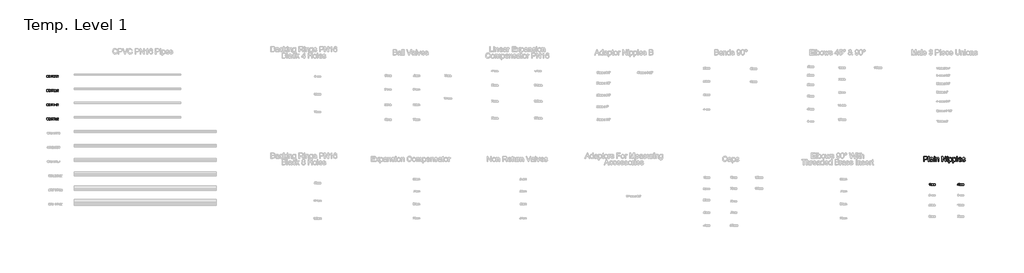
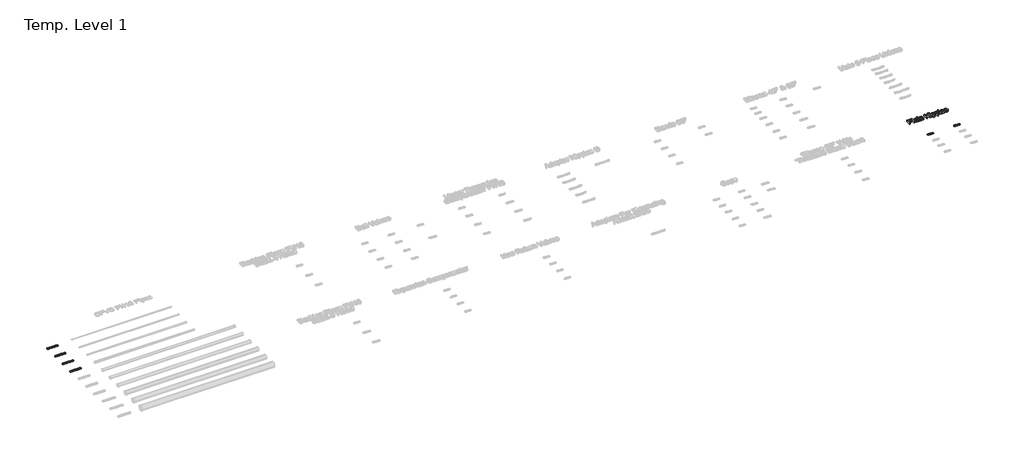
# One storey, part 53 of 62: 7 proxies.
"""IFC4 building model written with IfcOpenShell, lengths in millimetres."""

from ifc_helpers import new_model, si_unit, origin, origin_with_axes, place, context, project, spatial, polyline, outline, extrude, element, save

model = new_model("IFC4")

# Units and contexts
model_context = context("Model", 3, world=origin())
ifc_project = project(units=[si_unit("LENGTHUNIT", "METRE", prefix="MILLI")], contexts=[model_context])

# Site, building, storey
site = spatial("IfcSite", under=ifc_project)
building = spatial("IfcBuilding", under=site)
storey = spatial("IfcBuildingStorey", under=building, Name="Temp. Level 1", Elevation=0.0)

# Proxies
placement = place(None, origin())
element("IfcBuildingElementProxy", 1, Name="150mm Arial", ObjectType="150mm Arial", at=placement, inside=storey, context=model_context, shape_type="SweptSolid", body=[
    extrude(outline(polyline([(26837.6560981, -1070.198517), (26837.6560981, -922.5062093), (26892.391675, -922.5062093), (26914.4589827, -923.9124593), (26932.3976846, -930.8175074), (26944.0262904, -945.0963536), (26948.4253288, -965.2345747), (26945.4550764, -982.6414257), (26936.5443192, -997.1456324), (26919.8811582, -1006.9352959), (26893.6536942, -1010.198517), (26856.1176365, -1010.198517), (26856.1176365, -1070.198517), (26837.6560981, -1070.198517)]), holes=[polyline([(26856.1176365, -991.7369786), (26894.735425, -991.7369786), (26911.1056173, -990.042267), (26921.922925, -984.9581324), (26927.953574, -976.8000795), (26929.9637904, -965.8836132), (26925.2222038, -950.5951516), (26912.7642712, -942.229767), (26894.3027327, -940.9677478), (26856.1176365, -940.9677478), (26856.1176365, -991.7369786)])]), origin_with_axes(), (0.0, 0.0, 1.0), 50.0),
    extrude(outline(polyline([(26971.5022519, -1070.198517), (26971.5022519, -922.5062093), (26989.9637904, -922.5062093), (26989.9637904, -1070.198517), (26971.5022519, -1070.198517)])), origin_with_axes(), (0.0, 0.0, 1.0), 50.0),
    extrude(outline(polyline([(27086.8868673, -1056.3523632), (27068.9842231, -1068.8643824), (27049.2065788, -1072.5062093), (27033.7783938, -1070.3157045), (27022.3976846, -1063.7441901), (27015.3799563, -1053.7652237), (27013.0407135, -1041.3523632), (27016.5743673, -1026.7489978), (27025.8592231, -1016.1480362), (27038.7859058, -1010.0903439), (27054.7594635, -1007.3139016), (27086.7786942, -1000.9677478), (27086.8868673, -996.8571709), (27085.6158337, -988.6179882), (27081.8027327, -983.2273632), (27073.2750885, -979.2249593), (27061.3940788, -977.8908247), (27042.7161942, -981.4425074), (27033.8099442, -994.0446709), (27015.3484058, -991.7369786), (27023.3351846, -973.7081324), (27039.4169154, -963.1432286), (27063.7738865, -959.4292862), (27086.1476846, -962.7105362), (27098.7859058, -970.9497189), (27104.4469635, -983.479767), (27105.3484058, -999.6336132), (27105.3484058, -1022.6023632), (27106.2859058, -1054.6756805), (27109.9637904, -1070.198517), (27091.5022519, -1070.198517), (27086.8868673, -1056.3523632)]), holes=[polyline([(27086.8868673, -1019.4292862), (27057.1032135, -1025.0903439), (27041.2198, -1028.0831324), (27034.0262904, -1032.9509209), (27031.5022519, -1040.0542862), (27037.00105, -1050.042267), (27053.1368673, -1054.0446709), (27071.8147519, -1049.6276036), (27083.8580212, -1038.9364978), (27086.7786942, -1024.6576516), (27086.8868673, -1019.4292862)])]), origin_with_axes(), (0.0, 0.0, 1.0), 50.0),
    extrude(outline(polyline([(27130.7330212, -940.9677478), (27130.7330212, -922.5062093), (27149.1945596, -922.5062093), (27149.1945596, -940.9677478), (27130.7330212, -940.9677478)])), origin_with_axes(), (0.0, 0.0, 1.0), 50.0),
    extrude(outline(polyline([(27130.7330212, -1070.198517), (27130.7330212, -961.7369786), (27149.1945596, -961.7369786), (27149.1945596, -1070.198517), (27130.7330212, -1070.198517)])), origin_with_axes(), (0.0, 0.0, 1.0), 50.0),
    extrude(outline(polyline([(27176.8868673, -1070.198517), (27176.8868673, -961.7369786), (27195.3484058, -961.7369786), (27195.3484058, -976.8812093), (27209.4649923, -963.792267), (27228.7378288, -959.4292862), (27246.1717231, -962.9449112), (27258.0707615, -972.1756805), (27263.6056173, -985.7514016), (27264.579175, -1003.5999593), (27264.579175, -1070.198517), (27246.1176365, -1070.198517), (27246.1176365, -1006.0879401), (27243.9902327, -989.7538055), (27236.4722038, -981.1179882), (27223.797925, -977.8908247), (27212.9851245, -979.7027237), (27203.7678769, -985.1384209), (27197.4532736, -995.6402237), (27195.3484058, -1012.6504401), (27195.3484058, -1070.198517), (27176.8868673, -1070.198517)])), origin_with_axes(), (0.0, 0.0, 1.0), 50.0),
    extrude(outline(polyline([(27349.9637904, -1070.198517), (27349.9637904, -922.5062093), (27369.7234058, -922.5062093), (27446.8868673, -1039.5134209), (27446.8868673, -922.5062093), (27465.3484058, -922.5062093), (27465.3484058, -1070.198517), (27445.5887904, -1070.198517), (27368.4253288, -953.1552478), (27368.4253288, -1070.198517), (27349.9637904, -1070.198517)])), origin_with_axes(), (0.0, 0.0, 1.0), 50.0),
    extrude(outline(polyline([(27495.3484058, -1070.198517), (27495.3484058, -961.7369786), (27513.8099442, -961.7369786), (27513.8099442, -1070.198517), (27495.3484058, -1070.198517)])), origin_with_axes(), (0.0, 0.0, 1.0), 50.0),
    extrude(outline(polyline([(27495.3484058, -940.9677478), (27495.3484058, -922.5062093), (27513.8099442, -922.5062093), (27513.8099442, -940.9677478), (27495.3484058, -940.9677478)])), origin_with_axes(), (0.0, 0.0, 1.0), 50.0),
    extrude(outline(polyline([(27541.5022519, -1111.7369786), (27541.5022519, -961.7369786), (27559.9637904, -961.7369786), (27559.9637904, -979.8379401), (27572.7282135, -964.5314497), (27589.9637904, -959.4292862), (27602.4487663, -961.214142), (27613.3652327, -966.5687093), (27622.2534538, -975.1684689), (27628.6536942, -986.6889016), (27633.8099442, -1015.1384209), (27632.3541149, -1030.9271829), (27627.9866269, -1045.0482766), (27620.8472038, -1056.7850555), (27611.0755692, -1065.4208728), (27599.6948601, -1070.7348752), (27587.7282135, -1072.5062093), (27571.6645115, -1067.7646228), (27559.9637904, -1055.7754401), (27559.9637904, -1111.7369786), (27541.5022519, -1111.7369786)]), holes=[polyline([(27559.9637904, -1016.8331324), (27561.9604851, -1033.3836132), (27567.9505692, -1044.9581324), (27576.7892111, -1051.7730362), (27587.3315788, -1054.0446709), (27598.0452207, -1051.6919064), (27607.1092231, -1044.6336132), (27613.2886101, -1032.6354161), (27615.3484058, -1015.4629401), (27613.3381894, -999.0026036), (27607.3075404, -987.2658247), (27598.4824202, -980.2345747), (27588.0887904, -977.8908247), (27577.6545957, -980.3833127), (27568.4914346, -987.8607766), (27562.0957014, -1000.0888415), (27559.9637904, -1016.8331324)])]), origin_with_axes(), (0.0, 0.0, 1.0), 50.0),
    extrude(outline(polyline([(27654.579175, -1111.7369786), (27654.579175, -961.7369786), (27673.0407135, -961.7369786), (27673.0407135, -979.8379401), (27685.8051365, -964.5314497), (27703.0407135, -959.4292862), (27715.5256894, -961.214142), (27726.4421558, -966.5687093), (27735.3303769, -975.1684689), (27741.7306173, -986.6889016), (27746.8868673, -1015.1384209), (27745.431038, -1030.9271829), (27741.06355, -1045.0482766), (27733.9241269, -1056.7850555), (27724.1524923, -1065.4208728), (27712.7717832, -1070.7348752), (27700.8051365, -1072.5062093), (27684.7414346, -1067.7646228), (27673.0407135, -1055.7754401), (27673.0407135, -1111.7369786), (27654.579175, -1111.7369786)]), holes=[polyline([(27673.0407135, -1016.8331324), (27675.0374082, -1033.3836132), (27681.0274923, -1044.9581324), (27689.8661341, -1051.7730362), (27700.4085019, -1054.0446709), (27711.1221438, -1051.6919064), (27720.1861462, -1044.6336132), (27726.3655332, -1032.6354161), (27728.4253288, -1015.4629401), (27726.4151125, -999.0026036), (27720.3844635, -987.2658247), (27711.5593433, -980.2345747), (27701.1657135, -977.8908247), (27690.7315188, -980.3833127), (27681.5683577, -987.8607766), (27675.1726245, -1000.0888415), (27673.0407135, -1016.8331324)])]), origin_with_axes(), (0.0, 0.0, 1.0), 50.0),
    extrude(outline(polyline([(27767.6560981, -1070.198517), (27767.6560981, -922.5062093), (27786.1176365, -922.5062093), (27786.1176365, -1070.198517), (27767.6560981, -1070.198517)])), origin_with_axes(), (0.0, 0.0, 1.0), 50.0),
    extrude(outline(polyline([(27889.7474442, -1037.8908247), (27907.8484058, -1040.198517), (27901.3264707, -1053.8373391), (27890.9193192, -1064.0326516), (27876.8613264, -1070.3878199), (27859.3868673, -1072.5062093), (27837.7252087, -1068.8508608), (27821.0575404, -1057.8848151), (27810.4295356, -1040.3202117), (27806.8868673, -1016.8691901), (27810.4655933, -992.6294064), (27821.2017712, -974.5014016), (27837.6440788, -963.1973151), (27858.3411942, -959.4292862), (27878.3937784, -963.1883007), (27894.4169154, -974.4653439), (27904.9232255, -992.5572911), (27908.4253288, -1016.761017), (27908.3171558, -1021.7369786), (27825.3484058, -1021.7369786), (27828.5440188, -1035.5560891), (27835.9673962, -1045.7153439), (27846.681038, -1051.9623391), (27859.7474442, -1054.0446709), (27877.8484058, -1050.1864978), (27889.7474442, -1037.8908247)]), holes=[polyline([(27825.3484058, -1003.2754401), (27889.9637904, -1003.2754401), (27887.4667952, -993.5218343), (27882.5719635, -986.5446709), (27871.8087423, -980.0542862), (27858.2690788, -977.8908247), (27845.8246678, -979.6170867), (27835.5347038, -984.7958728), (27828.3817591, -992.8682887), (27825.3484058, -1003.2754401)])]), origin_with_axes(), (0.0, 0.0, 1.0), 50.0),
    extrude(outline(polyline([(27919.9637904, -1037.8908247), (27938.4253288, -1035.5831324), (27941.3369875, -1043.479767), (27946.9710019, -1049.2850555), (27966.5503288, -1054.0446709), (27985.3724442, -1049.6816901), (27991.5022519, -1039.4413055), (27985.3363865, -1031.1480362), (27966.3339827, -1025.8836132), (27938.5335019, -1016.8511612), (27926.4000885, -1006.3042862), (27922.2714827, -991.4124593), (27925.5887904, -977.6564497), (27934.6392712, -967.1456324), (27946.37605, -961.682892), (27962.2594635, -959.4292862), (27984.7234058, -963.0530843), (27999.0022519, -972.8607766), (28005.3484058, -989.4292862), (27986.8868673, -991.7369786), (27979.9457615, -981.5506805), (27963.7017712, -977.8908247), (27946.0335019, -981.3884209), (27940.7330212, -989.5374593), (27942.9325404, -994.9100555), (27949.8195596, -998.9845747), (27965.7210019, -1002.9148632), (27992.8183577, -1011.604767), (28005.4024923, -1021.448517), (28009.9637904, -1037.4941901), (28004.6092231, -1055.1624593), (27989.1585019, -1067.9809689), (27966.297925, -1072.5062093), (27947.6831413, -1070.3247189), (27934.0984058, -1063.7802478), (27925.0298962, -1052.9449112), (27919.9637904, -1037.8908247)])), origin_with_axes(), (0.0, 0.0, 1.0), 50.0),
])
element("IfcBuildingElementProxy", 2, Name="50mm Arial", ObjectType="50mm Arial", at=placement, inside=storey, context=model_context, shape_type="SweptSolid", body=[
    extrude(outline(polyline([(27009.5772603, -1740.3522066), (27003.4234142, -1740.3522066), (27003.4234142, -1701.986822), (26997.5940872, -1706.1394662), (26991.1157219, -1709.2464374), (26991.1157219, -1703.4291297), (27000.1361546, -1697.6719182), (27005.6109142, -1691.1214374), (27009.5772603, -1691.1214374), (27009.5772603, -1740.3522066)])), origin_with_axes(), (0.0, 0.0, 1.0), 15.0),
    extrude(outline(polyline([(27055.7311065, -1704.1983605), (27049.5772603, -1704.9675912), (27047.2455296, -1699.8353797), (27041.0796642, -1697.2752835), (27035.5267796, -1698.7656682), (27031.3260584, -1704.3606201), (27029.5772603, -1715.3281682), (27035.003943, -1710.4183124), (27041.7287026, -1708.8137451), (27052.1854334, -1713.2007643), (27056.5003372, -1724.5348989), (27054.4690872, -1733.0264855), (27048.8801449, -1739.0361009), (27040.8152411, -1741.1214374), (27028.2731738, -1735.5925912), (27024.6358541, -1728.2728797), (27023.4234142, -1717.3714374), (27024.769568, -1705.1148268), (27028.8080296, -1696.7344182), (27034.3218517, -1692.5246826), (27041.4642796, -1691.1214374), (27051.1878372, -1694.5949951), (27055.7311065, -1704.1983605)]), holes=[polyline([(27029.5772603, -1724.4387451), (27031.0015392, -1729.7692739), (27034.7875969, -1733.6394662), (27040.3344719, -1734.9675912), (27047.5880776, -1732.2151874), (27050.3464911, -1724.7392259), (27047.6241353, -1717.5817739), (27040.082068, -1714.9675912), (27032.6361546, -1717.5817739), (27029.5772603, -1724.4387451)])]), origin_with_axes(), (0.0, 0.0, 1.0), 15.0),
    extrude(outline(polyline([(27063.4234142, -1740.3522066), (27063.4234142, -1704.1983605), (27069.5772603, -1704.1983605), (27069.5772603, -1710.1478797), (27073.8080296, -1705.2740816), (27079.8296642, -1703.4291297), (27085.9955296, -1705.3101393), (27089.3849526, -1710.580572), (27094.1866353, -1705.2169903), (27100.2503372, -1703.4291297), (27108.2972122, -1706.4038893), (27111.1157219, -1715.5685528), (27111.1157219, -1740.3522066), (27104.9618757, -1740.3522066), (27104.9618757, -1718.2127835), (27104.3909622, -1713.0745624), (27102.3236546, -1710.5445143), (27098.8080296, -1709.5829759), (27092.7563469, -1712.0469182), (27090.3464911, -1719.9435528), (27090.3464911, -1740.3522066), (27084.1926449, -1740.3522066), (27084.1926449, -1717.5276874), (27082.7683661, -1711.5661489), (27078.0988949, -1709.5829759), (27073.5436065, -1710.9050912), (27070.5147603, -1714.7752835), (27069.5772603, -1722.1190335), (27069.5772603, -1740.3522066), (27063.4234142, -1740.3522066)])), origin_with_axes(), (0.0, 0.0, 1.0), 15.0),
    extrude(outline(polyline([(27120.3464911, -1740.3522066), (27120.3464911, -1704.1983605), (27126.5003372, -1704.1983605), (27126.5003372, -1710.1478797), (27130.7311065, -1705.2740816), (27136.7527411, -1703.4291297), (27142.9186065, -1705.3101393), (27146.3080296, -1710.580572), (27151.1097122, -1705.2169903), (27157.1734142, -1703.4291297), (27165.2202892, -1706.4038893), (27168.0387988, -1715.5685528), (27168.0387988, -1740.3522066), (27161.8849526, -1740.3522066), (27161.8849526, -1718.2127835), (27161.3140392, -1713.0745624), (27159.2467315, -1710.5445143), (27155.7311065, -1709.5829759), (27149.6794238, -1712.0469182), (27147.269568, -1719.9435528), (27147.269568, -1740.3522066), (27141.1157219, -1740.3522066), (27141.1157219, -1717.5276874), (27139.691443, -1711.5661489), (27135.0219719, -1709.5829759), (27130.4666834, -1710.9050912), (27127.4378372, -1714.7752835), (27126.5003372, -1722.1190335), (27126.5003372, -1740.3522066), (27120.3464911, -1740.3522066)])), origin_with_axes(), (0.0, 0.0, 1.0), 15.0),
])
element("IfcBuildingElementProxy", 3, Name="50mm Arial", ObjectType="50mm Arial", at=placement, inside=storey, context=model_context, shape_type="SweptSolid", body=[
    extrude(outline(polyline([(27810.226047, -1740.3522066), (27810.226047, -1728.8137451), (27787.9183547, -1728.8137451), (27787.9183547, -1722.6598989), (27811.7645085, -1691.8906682), (27816.3798931, -1691.8906682), (27816.3798931, -1722.6598989), (27822.5337393, -1722.6598989), (27822.5337393, -1728.8137451), (27816.3798931, -1728.8137451), (27816.3798931, -1740.3522066), (27810.226047, -1740.3522066)]), holes=[polyline([(27810.226047, -1722.6598989), (27810.226047, -1703.6454759), (27795.4904701, -1722.6598989), (27810.226047, -1722.6598989)])]), origin_with_axes(), (0.0, 0.0, 1.0), 15.0),
    extrude(outline(polyline([(27827.9183547, -1716.1334566), (27829.7272489, -1701.9687932), (27835.0998451, -1693.8017259), (27844.0722008, -1691.1214374), (27851.2597008, -1692.7079759), (27856.2236431, -1697.2812932), (27859.1082585, -1704.564947), (27860.226047, -1716.1334566), (27858.4351816, -1730.2380239), (27853.0806143, -1738.4231201), (27844.0722008, -1741.1214374), (27832.8222008, -1736.4339374), (27829.1443162, -1728.1076153), (27827.9183547, -1716.1334566)]), holes=[polyline([(27834.0722008, -1716.1214374), (27836.9568162, -1731.4038893), (27844.0722008, -1734.9675912), (27851.1875854, -1731.3918701), (27854.0722008, -1716.1214374), (27851.2837393, -1701.0132643), (27844.0000854, -1697.2752835), (27837.0529701, -1700.5685528), (27834.0722008, -1716.1214374)])]), origin_with_axes(), (0.0, 0.0, 1.0), 15.0),
    extrude(outline(polyline([(27867.1491239, -1740.3522066), (27867.1491239, -1704.1983605), (27873.3029701, -1704.1983605), (27873.3029701, -1710.1478797), (27877.5337393, -1705.2740816), (27883.5553739, -1703.4291297), (27889.7212393, -1705.3101393), (27893.1106624, -1710.580572), (27897.9123451, -1705.2169903), (27903.976047, -1703.4291297), (27912.022922, -1706.4038893), (27914.8414316, -1715.5685528), (27914.8414316, -1740.3522066), (27908.6875854, -1740.3522066), (27908.6875854, -1718.2127835), (27908.116672, -1713.0745624), (27906.0493643, -1710.5445143), (27902.5337393, -1709.5829759), (27896.4820566, -1712.0469182), (27894.0722008, -1719.9435528), (27894.0722008, -1740.3522066), (27887.9183547, -1740.3522066), (27887.9183547, -1717.5276874), (27886.4940758, -1711.5661489), (27881.8246047, -1709.5829759), (27877.2693162, -1710.9050912), (27874.2404701, -1714.7752835), (27873.3029701, -1722.1190335), (27873.3029701, -1740.3522066), (27867.1491239, -1740.3522066)])), origin_with_axes(), (0.0, 0.0, 1.0), 15.0),
    extrude(outline(polyline([(27924.0722008, -1740.3522066), (27924.0722008, -1704.1983605), (27930.226047, -1704.1983605), (27930.226047, -1710.1478797), (27934.4568162, -1705.2740816), (27940.4784508, -1703.4291297), (27946.6443162, -1705.3101393), (27950.0337393, -1710.580572), (27954.835422, -1705.2169903), (27960.8991239, -1703.4291297), (27968.9459989, -1706.4038893), (27971.7645085, -1715.5685528), (27971.7645085, -1740.3522066), (27965.6106624, -1740.3522066), (27965.6106624, -1718.2127835), (27965.0397489, -1713.0745624), (27962.9724412, -1710.5445143), (27959.4568162, -1709.5829759), (27953.4051335, -1712.0469182), (27950.9952777, -1719.9435528), (27950.9952777, -1740.3522066), (27944.8414316, -1740.3522066), (27944.8414316, -1717.5276874), (27943.4171527, -1711.5661489), (27938.7476816, -1709.5829759), (27934.1923931, -1710.9050912), (27931.163547, -1714.7752835), (27930.226047, -1722.1190335), (27930.226047, -1740.3522066), (27924.0722008, -1740.3522066)])), origin_with_axes(), (0.0, 0.0, 1.0), 15.0),
])
element("IfcBuildingElementProxy", 4, Name="50mm Arial", ObjectType="50mm Arial", at=placement, inside=storey, context=model_context, shape_type="SweptSolid", body=[
    extrude(outline(polyline([(2215.1756771, 1321.5015112), (2215.1756771, 1327.6553574), (2235.1756771, 1327.6553574), (2235.1756771, 1309.2539151), (2225.301879, 1303.4486266), (2214.8631771, 1301.5015112), (2201.7201483, 1304.5964632), (2192.801879, 1313.5567997), (2189.7910617, 1326.645742), (2192.7898598, 1340.0291555), (2201.4136579, 1349.2539151), (2214.3703886, 1352.270742), (2223.9977925, 1350.5219439), (2230.7465906, 1345.6541555), (2234.4665425, 1337.5111266), (2228.7934656, 1335.9125689), (2225.9869752, 1341.6036747), (2221.1913021, 1344.8849247), (2214.2742348, 1346.1168958), (2206.395629, 1344.7887708), (2201.0350521, 1341.3031939), (2197.8679848, 1336.5616074), (2195.9449079, 1326.8981458), (2198.2586098, 1316.1709824), (2204.989379, 1309.7527132), (2214.3703886, 1307.6553574), (2222.7898598, 1309.2358862), (2229.0218309, 1312.6072805), (2229.0218309, 1321.5015112), (2215.1756771, 1321.5015112)])), origin_with_axes(), (0.0, 0.0, 1.0), 15.0),
    extrude(outline(polyline([(2257.4833694, 1302.270742), (2257.4833694, 1345.3476651), (2241.3295233, 1345.3476651), (2241.3295233, 1351.5015112), (2279.7910617, 1351.5015112), (2279.7910617, 1345.3476651), (2263.6372156, 1345.3476651), (2263.6372156, 1302.270742), (2257.4833694, 1302.270742)])), origin_with_axes(), (0.0, 0.0, 1.0), 15.0),
    extrude(outline(polyline([(2286.7141386, 1302.270742), (2286.7141386, 1351.5015112), (2292.8679848, 1351.5015112), (2292.8679848, 1331.5015112), (2319.0218309, 1331.5015112), (2319.0218309, 1351.5015112), (2325.1756771, 1351.5015112), (2325.1756771, 1302.270742), (2319.0218309, 1302.270742), (2319.0218309, 1325.3476651), (2292.8679848, 1325.3476651), (2292.8679848, 1302.270742), (2286.7141386, 1302.270742)])), origin_with_axes(), (0.0, 0.0, 1.0), 15.0),
    extrude(outline(polyline([(2348.2526002, 1302.270742), (2348.2526002, 1345.3476651), (2332.098754, 1345.3476651), (2332.098754, 1351.5015112), (2370.5602925, 1351.5015112), (2370.5602925, 1345.3476651), (2354.4064463, 1345.3476651), (2354.4064463, 1302.270742), (2348.2526002, 1302.270742)])), origin_with_axes(), (0.0, 0.0, 1.0), 15.0),
    extrude(outline(polyline([(2406.7141386, 1308.4245882), (2406.7141386, 1302.270742), (2374.4064463, 1302.270742), (2375.067504, 1306.5135305), (2378.8054848, 1313.0459824), (2386.5098117, 1320.1793958), (2397.1348117, 1330.4317997), (2399.7910617, 1337.4029535), (2397.2850521, 1343.0459824), (2390.7405809, 1345.3476651), (2383.9196675, 1343.1000689), (2381.3295233, 1336.8861266), (2375.1756771, 1337.6553574), (2379.8932252, 1347.9558382), (2390.8727925, 1351.5015112), (2401.8884175, 1347.5592035), (2405.9449079, 1337.7755497), (2404.8511579, 1331.9402132), (2401.2153406, 1325.9065593), (2392.3992348, 1317.4750689), (2385.3199079, 1311.5555978), (2382.5434656, 1308.4245882), (2406.7141386, 1308.4245882)])), origin_with_axes(), (0.0, 0.0, 1.0), 15.0),
    extrude(outline(polyline([(2412.8679848, 1315.3476651), (2419.0218309, 1316.1168958), (2422.1227925, 1309.7767516), (2428.5530809, 1307.6553574), (2436.2694271, 1310.6060785), (2439.0218309, 1318.4366074), (2436.4437059, 1325.7442997), (2428.6492348, 1328.4245882), (2423.2465906, 1327.3548766), (2419.7910617, 1324.5784343), (2413.6372156, 1325.3476651), (2419.0218309, 1350.7322805), (2442.8679848, 1350.7322805), (2442.8679848, 1344.5784343), (2423.9977925, 1344.5784343), (2421.3655809, 1331.020742), (2430.3679848, 1334.5784343), (2440.8908213, 1330.1673766), (2445.1756771, 1318.8212228), (2441.317504, 1307.4029535), (2435.7766386, 1302.9768718), (2428.5290425, 1301.5015112), (2417.6696675, 1305.2935785), (2412.8679848, 1315.3476651)])), origin_with_axes(), (0.0, 0.0, 1.0), 15.0),
    extrude(outline(polyline([(2473.6372156, 1302.270742), (2467.4833694, 1302.270742), (2467.4833694, 1340.6361266), (2461.6540425, 1336.4834824), (2455.1756771, 1333.3765112), (2455.1756771, 1339.1938189), (2464.1961098, 1344.9510305), (2469.6708694, 1351.5015112), (2473.6372156, 1351.5015112), (2473.6372156, 1302.270742)])), origin_with_axes(), (0.0, 0.0, 1.0), 15.0),
    extrude(outline(polyline([(2519.7910617, 1338.4245882), (2513.6372156, 1337.6553574), (2511.3054848, 1342.7875689), (2505.1396194, 1345.3476651), (2499.5867348, 1343.8572805), (2495.3860136, 1338.2623285), (2493.6372156, 1327.2947805), (2499.0638983, 1332.2046362), (2505.7886579, 1333.8092035), (2516.2453886, 1329.4221843), (2520.5602925, 1318.0880497), (2518.5290425, 1309.5964632), (2512.9401002, 1303.5868478), (2504.8751963, 1301.5015112), (2492.333129, 1307.0303574), (2488.6958093, 1314.3500689), (2487.4833694, 1325.2515112), (2488.8295233, 1337.5081218), (2492.8679848, 1345.8885305), (2498.3818069, 1350.098266), (2505.5242348, 1351.5015112), (2515.2477925, 1348.0279535), (2519.7910617, 1338.4245882)]), holes=[polyline([(2493.6372156, 1318.1842035), (2495.0614944, 1312.8536747), (2498.8475521, 1308.9834824), (2504.3944271, 1307.6553574), (2511.6480329, 1310.4077612), (2514.4064463, 1317.8837228), (2511.6840906, 1325.0411747), (2504.1420233, 1327.6553574), (2496.6961098, 1325.0411747), (2493.6372156, 1318.1842035)])]), origin_with_axes(), (0.0, 0.0, 1.0), 15.0),
])
element("IfcBuildingElementProxy", 5, Name="50mm Arial", ObjectType="50mm Arial", at=placement, inside=storey, context=model_context, shape_type="SweptSolid", body=[
    extrude(outline(polyline([(2215.1756771, 921.5015112), (2215.1756771, 927.6553574), (2235.1756771, 927.6553574), (2235.1756771, 909.2539151), (2225.301879, 903.4486266), (2214.8631771, 901.5015112), (2201.7201483, 904.5964632), (2192.801879, 913.5567997), (2189.7910617, 926.645742), (2192.7898598, 940.0291555), (2201.4136579, 949.2539151), (2214.3703886, 952.270742), (2223.9977925, 950.5219439), (2230.7465906, 945.6541555), (2234.4665425, 937.5111266), (2228.7934656, 935.9125689), (2225.9869752, 941.6036747), (2221.1913021, 944.8849247), (2214.2742348, 946.1168958), (2206.395629, 944.7887708), (2201.0350521, 941.3031939), (2197.8679848, 936.5616074), (2195.9449079, 926.8981458), (2198.2586098, 916.1709824), (2204.989379, 909.7527132), (2214.3703886, 907.6553574), (2222.7898598, 909.2358862), (2229.0218309, 912.6072805), (2229.0218309, 921.5015112), (2215.1756771, 921.5015112)])), origin_with_axes(), (0.0, 0.0, 1.0), 15.0),
    extrude(outline(polyline([(2257.4833694, 902.270742), (2257.4833694, 945.3476651), (2241.3295233, 945.3476651), (2241.3295233, 951.5015112), (2279.7910617, 951.5015112), (2279.7910617, 945.3476651), (2263.6372156, 945.3476651), (2263.6372156, 902.270742), (2257.4833694, 902.270742)])), origin_with_axes(), (0.0, 0.0, 1.0), 15.0),
    extrude(outline(polyline([(2286.7141386, 902.270742), (2286.7141386, 951.5015112), (2292.8679848, 951.5015112), (2292.8679848, 931.5015112), (2319.0218309, 931.5015112), (2319.0218309, 951.5015112), (2325.1756771, 951.5015112), (2325.1756771, 902.270742), (2319.0218309, 902.270742), (2319.0218309, 925.3476651), (2292.8679848, 925.3476651), (2292.8679848, 902.270742), (2286.7141386, 902.270742)])), origin_with_axes(), (0.0, 0.0, 1.0), 15.0),
    extrude(outline(polyline([(2348.2526002, 902.270742), (2348.2526002, 945.3476651), (2332.098754, 945.3476651), (2332.098754, 951.5015112), (2370.5602925, 951.5015112), (2370.5602925, 945.3476651), (2354.4064463, 945.3476651), (2354.4064463, 902.270742), (2348.2526002, 902.270742)])), origin_with_axes(), (0.0, 0.0, 1.0), 15.0),
    extrude(outline(polyline([(2375.1756771, 915.3476651), (2381.3295233, 916.1168958), (2384.7249559, 909.6385305), (2391.0771194, 907.6553574), (2398.5530809, 910.3837228), (2401.3295233, 917.1385305), (2398.5771194, 923.5027132), (2391.5819271, 926.020742), (2387.2670233, 925.3476651), (2387.9521194, 931.5015112), (2395.9208694, 933.1962228), (2399.0218309, 938.6289151), (2396.7742348, 943.442617), (2390.9809656, 945.3476651), (2385.1155809, 943.4245882), (2382.098754, 937.6553574), (2375.9449079, 938.4245882), (2380.9809656, 948.0760305), (2390.7646194, 951.5015112), (2398.1864944, 949.8128093), (2403.3788021, 945.1974247), (2405.1756771, 938.989492), (2403.4689463, 933.3164151), (2398.4208694, 929.2418958), (2405.1276002, 925.0351651), (2407.4833694, 917.0303574), (2402.7718309, 906.020742), (2390.8607733, 901.5015112), (2380.067504, 905.3596843), (2375.1756771, 915.3476651)])), origin_with_axes(), (0.0, 0.0, 1.0), 15.0),
    extrude(outline(polyline([(2444.4064463, 908.4245882), (2444.4064463, 902.270742), (2412.098754, 902.270742), (2412.7598117, 906.5135305), (2416.4977925, 913.0459824), (2424.2021194, 920.1793958), (2434.8271194, 930.4317997), (2437.4833694, 937.4029535), (2434.9773598, 943.0459824), (2428.4328886, 945.3476651), (2421.6119752, 943.1000689), (2419.0218309, 936.8861266), (2412.8679848, 937.6553574), (2417.5855329, 947.9558382), (2428.5651002, 951.5015112), (2439.5807252, 947.5592035), (2443.6372156, 937.7755497), (2442.5434656, 931.9402132), (2438.9076483, 925.9065593), (2430.0915425, 917.4750689), (2423.0122156, 911.5555978), (2420.2357733, 908.4245882), (2444.4064463, 908.4245882)])), origin_with_axes(), (0.0, 0.0, 1.0), 15.0),
    extrude(outline(polyline([(2473.6372156, 902.270742), (2467.4833694, 902.270742), (2467.4833694, 940.6361266), (2461.6540425, 936.4834824), (2455.1756771, 933.3765112), (2455.1756771, 939.1938189), (2464.1961098, 944.9510305), (2469.6708694, 951.5015112), (2473.6372156, 951.5015112), (2473.6372156, 902.270742)])), origin_with_axes(), (0.0, 0.0, 1.0), 15.0),
    extrude(outline(polyline([(2519.7910617, 938.4245882), (2513.6372156, 937.6553574), (2511.3054848, 942.7875689), (2505.1396194, 945.3476651), (2499.5867348, 943.8572805), (2495.3860136, 938.2623285), (2493.6372156, 927.2947805), (2499.0638983, 932.2046362), (2505.7886579, 933.8092035), (2516.2453886, 929.4221843), (2520.5602925, 918.0880497), (2518.5290425, 909.5964632), (2512.9401002, 903.5868478), (2504.8751963, 901.5015112), (2492.333129, 907.0303574), (2488.6958093, 914.3500689), (2487.4833694, 925.2515112), (2488.8295233, 937.5081218), (2492.8679848, 945.8885305), (2498.3818069, 950.098266), (2505.5242348, 951.5015112), (2515.2477925, 948.0279535), (2519.7910617, 938.4245882)]), holes=[polyline([(2493.6372156, 918.1842035), (2495.0614944, 912.8536747), (2498.8475521, 908.9834824), (2504.3944271, 907.6553574), (2511.6480329, 910.4077612), (2514.4064463, 917.8837228), (2511.6840906, 925.0411747), (2504.1420233, 927.6553574), (2496.6961098, 925.0411747), (2493.6372156, 918.1842035)])]), origin_with_axes(), (0.0, 0.0, 1.0), 15.0),
])
element("IfcBuildingElementProxy", 6, Name="50mm Arial", ObjectType="50mm Arial", at=placement, inside=storey, context=model_context, shape_type="SweptSolid", body=[
    extrude(outline(polyline([(2215.1756771, 521.5015112), (2215.1756771, 527.6553574), (2235.1756771, 527.6553574), (2235.1756771, 509.2539151), (2225.301879, 503.4486266), (2214.8631771, 501.5015112), (2201.7201483, 504.5964632), (2192.801879, 513.5567997), (2189.7910617, 526.645742), (2192.7898598, 540.0291555), (2201.4136579, 549.2539151), (2214.3703886, 552.270742), (2223.9977925, 550.5219439), (2230.7465906, 545.6541555), (2234.4665425, 537.5111266), (2228.7934656, 535.9125689), (2225.9869752, 541.6036747), (2221.1913021, 544.8849247), (2214.2742348, 546.1168958), (2206.395629, 544.7887708), (2201.0350521, 541.3031939), (2197.8679848, 536.5616074), (2195.9449079, 526.8981458), (2198.2586098, 516.1709824), (2204.989379, 509.7527132), (2214.3703886, 507.6553574), (2222.7898598, 509.2358862), (2229.0218309, 512.6072805), (2229.0218309, 521.5015112), (2215.1756771, 521.5015112)])), origin_with_axes(), (0.0, 0.0, 1.0), 15.0),
    extrude(outline(polyline([(2257.4833694, 502.270742), (2257.4833694, 545.3476651), (2241.3295233, 545.3476651), (2241.3295233, 551.5015112), (2279.7910617, 551.5015112), (2279.7910617, 545.3476651), (2263.6372156, 545.3476651), (2263.6372156, 502.270742), (2257.4833694, 502.270742)])), origin_with_axes(), (0.0, 0.0, 1.0), 15.0),
    extrude(outline(polyline([(2286.7141386, 502.270742), (2286.7141386, 551.5015112), (2292.8679848, 551.5015112), (2292.8679848, 531.5015112), (2319.0218309, 531.5015112), (2319.0218309, 551.5015112), (2325.1756771, 551.5015112), (2325.1756771, 502.270742), (2319.0218309, 502.270742), (2319.0218309, 525.3476651), (2292.8679848, 525.3476651), (2292.8679848, 502.270742), (2286.7141386, 502.270742)])), origin_with_axes(), (0.0, 0.0, 1.0), 15.0),
    extrude(outline(polyline([(2348.2526002, 502.270742), (2348.2526002, 545.3476651), (2332.098754, 545.3476651), (2332.098754, 551.5015112), (2370.5602925, 551.5015112), (2370.5602925, 545.3476651), (2354.4064463, 545.3476651), (2354.4064463, 502.270742), (2348.2526002, 502.270742)])), origin_with_axes(), (0.0, 0.0, 1.0), 15.0),
    extrude(outline(polyline([(2395.1756771, 502.270742), (2395.1756771, 513.8092035), (2372.8679848, 513.8092035), (2372.8679848, 519.9630497), (2396.7141386, 550.7322805), (2401.3295233, 550.7322805), (2401.3295233, 519.9630497), (2407.4833694, 519.9630497), (2407.4833694, 513.8092035), (2401.3295233, 513.8092035), (2401.3295233, 502.270742), (2395.1756771, 502.270742)]), holes=[polyline([(2395.1756771, 519.9630497), (2395.1756771, 538.9774728), (2380.4401002, 519.9630497), (2395.1756771, 519.9630497)])]), origin_with_axes(), (0.0, 0.0, 1.0), 15.0),
    extrude(outline(polyline([(2412.8679848, 526.489492), (2414.676879, 540.6541555), (2420.0494752, 548.8212228), (2429.0218309, 551.5015112), (2436.2093309, 549.9149728), (2441.1732733, 545.3416555), (2444.0578886, 538.0580016), (2445.1756771, 526.489492), (2443.3848117, 512.3849247), (2438.0302444, 504.1998285), (2429.0218309, 501.5015112), (2417.7718309, 506.1890112), (2414.0939463, 514.5153333), (2412.8679848, 526.489492)]), holes=[polyline([(2419.0218309, 526.5015112), (2421.9064463, 511.2190593), (2429.0218309, 507.6553574), (2436.1372156, 511.2310785), (2439.0218309, 526.5015112), (2436.2333694, 541.6096843), (2428.9497156, 545.3476651), (2422.0026002, 542.0543958), (2419.0218309, 526.5015112)])]), origin_with_axes(), (0.0, 0.0, 1.0), 15.0),
    extrude(outline(polyline([(2473.6372156, 502.270742), (2467.4833694, 502.270742), (2467.4833694, 540.6361266), (2461.6540425, 536.4834824), (2455.1756771, 533.3765112), (2455.1756771, 539.1938189), (2464.1961098, 544.9510305), (2469.6708694, 551.5015112), (2473.6372156, 551.5015112), (2473.6372156, 502.270742)])), origin_with_axes(), (0.0, 0.0, 1.0), 15.0),
    extrude(outline(polyline([(2519.7910617, 538.4245882), (2513.6372156, 537.6553574), (2511.3054848, 542.7875689), (2505.1396194, 545.3476651), (2499.5867348, 543.8572805), (2495.3860136, 538.2623285), (2493.6372156, 527.2947805), (2499.0638983, 532.2046362), (2505.7886579, 533.8092035), (2516.2453886, 529.4221843), (2520.5602925, 518.0880497), (2518.5290425, 509.5964632), (2512.9401002, 503.5868478), (2504.8751963, 501.5015112), (2492.333129, 507.0303574), (2488.6958093, 514.3500689), (2487.4833694, 525.2515112), (2488.8295233, 537.5081218), (2492.8679848, 545.8885305), (2498.3818069, 550.098266), (2505.5242348, 551.5015112), (2515.2477925, 548.0279535), (2519.7910617, 538.4245882)]), holes=[polyline([(2493.6372156, 518.1842035), (2495.0614944, 512.8536747), (2498.8475521, 508.9834824), (2504.3944271, 507.6553574), (2511.6480329, 510.4077612), (2514.4064463, 517.8837228), (2511.6840906, 525.0411747), (2504.1420233, 527.6553574), (2496.6961098, 525.0411747), (2493.6372156, 518.1842035)])]), origin_with_axes(), (0.0, 0.0, 1.0), 15.0),
])
element("IfcBuildingElementProxy", 7, Name="50mm Arial", ObjectType="50mm Arial", at=placement, inside=storey, context=model_context, shape_type="SweptSolid", body=[
    extrude(outline(polyline([(2215.1756771, 121.5015112), (2215.1756771, 127.6553574), (2235.1756771, 127.6553574), (2235.1756771, 109.2539151), (2225.301879, 103.4486266), (2214.8631771, 101.5015112), (2201.7201483, 104.5964632), (2192.801879, 113.5567997), (2189.7910617, 126.645742), (2192.7898598, 140.0291555), (2201.4136579, 149.2539151), (2214.3703886, 152.270742), (2223.9977925, 150.5219439), (2230.7465906, 145.6541555), (2234.4665425, 137.5111266), (2228.7934656, 135.9125689), (2225.9869752, 141.6036747), (2221.1913021, 144.8849247), (2214.2742348, 146.1168958), (2206.395629, 144.7887708), (2201.0350521, 141.3031939), (2197.8679848, 136.5616074), (2195.9449079, 126.8981458), (2198.2586098, 116.1709824), (2204.989379, 109.7527132), (2214.3703886, 107.6553574), (2222.7898598, 109.2358862), (2229.0218309, 112.6072805), (2229.0218309, 121.5015112), (2215.1756771, 121.5015112)])), origin_with_axes(), (0.0, 0.0, 1.0), 15.0),
    extrude(outline(polyline([(2257.4833694, 102.270742), (2257.4833694, 145.3476651), (2241.3295233, 145.3476651), (2241.3295233, 151.5015112), (2279.7910617, 151.5015112), (2279.7910617, 145.3476651), (2263.6372156, 145.3476651), (2263.6372156, 102.270742), (2257.4833694, 102.270742)])), origin_with_axes(), (0.0, 0.0, 1.0), 15.0),
    extrude(outline(polyline([(2286.7141386, 102.270742), (2286.7141386, 151.5015112), (2292.8679848, 151.5015112), (2292.8679848, 131.5015112), (2319.0218309, 131.5015112), (2319.0218309, 151.5015112), (2325.1756771, 151.5015112), (2325.1756771, 102.270742), (2319.0218309, 102.270742), (2319.0218309, 125.3476651), (2292.8679848, 125.3476651), (2292.8679848, 102.270742), (2286.7141386, 102.270742)])), origin_with_axes(), (0.0, 0.0, 1.0), 15.0),
    extrude(outline(polyline([(2348.2526002, 102.270742), (2348.2526002, 145.3476651), (2332.098754, 145.3476651), (2332.098754, 151.5015112), (2370.5602925, 151.5015112), (2370.5602925, 145.3476651), (2354.4064463, 145.3476651), (2354.4064463, 102.270742), (2348.2526002, 102.270742)])), origin_with_axes(), (0.0, 0.0, 1.0), 15.0),
    extrude(outline(polyline([(2375.1756771, 115.3476651), (2381.3295233, 116.1168958), (2384.4304848, 109.7767516), (2390.8607733, 107.6553574), (2398.5771194, 110.6060785), (2401.3295233, 118.4366074), (2398.7513983, 125.7442997), (2390.9569271, 128.4245882), (2385.5542829, 127.3548766), (2382.098754, 124.5784343), (2375.9449079, 125.3476651), (2381.3295233, 150.7322805), (2405.1756771, 150.7322805), (2405.1756771, 144.5784343), (2386.3054848, 144.5784343), (2383.6732733, 131.020742), (2392.6756771, 134.5784343), (2403.1985136, 130.1673766), (2407.4833694, 118.8212228), (2403.6251963, 107.4029535), (2398.0843309, 102.9768718), (2390.8367348, 101.5015112), (2379.9773598, 105.2935785), (2375.1756771, 115.3476651)])), origin_with_axes(), (0.0, 0.0, 1.0), 15.0),
    extrude(outline(polyline([(2412.8679848, 126.489492), (2414.676879, 140.6541555), (2420.0494752, 148.8212228), (2429.0218309, 151.5015112), (2436.2093309, 149.9149728), (2441.1732733, 145.3416555), (2444.0578886, 138.0580016), (2445.1756771, 126.489492), (2443.3848117, 112.3849247), (2438.0302444, 104.1998285), (2429.0218309, 101.5015112), (2417.7718309, 106.1890112), (2414.0939463, 114.5153333), (2412.8679848, 126.489492)]), holes=[polyline([(2419.0218309, 126.5015112), (2421.9064463, 111.2190593), (2429.0218309, 107.6553574), (2436.1372156, 111.2310785), (2439.0218309, 126.5015112), (2436.2333694, 141.6096843), (2428.9497156, 145.3476651), (2422.0026002, 142.0543958), (2419.0218309, 126.5015112)])]), origin_with_axes(), (0.0, 0.0, 1.0), 15.0),
    extrude(outline(polyline([(2473.6372156, 102.270742), (2467.4833694, 102.270742), (2467.4833694, 140.6361266), (2461.6540425, 136.4834824), (2455.1756771, 133.3765112), (2455.1756771, 139.1938189), (2464.1961098, 144.9510305), (2469.6708694, 151.5015112), (2473.6372156, 151.5015112), (2473.6372156, 102.270742)])), origin_with_axes(), (0.0, 0.0, 1.0), 15.0),
    extrude(outline(polyline([(2519.7910617, 138.4245882), (2513.6372156, 137.6553574), (2511.3054848, 142.7875689), (2505.1396194, 145.3476651), (2499.5867348, 143.8572805), (2495.3860136, 138.2623285), (2493.6372156, 127.2947805), (2499.0638983, 132.2046362), (2505.7886579, 133.8092035), (2516.2453886, 129.4221843), (2520.5602925, 118.0880497), (2518.5290425, 109.5964632), (2512.9401002, 103.5868478), (2504.8751963, 101.5015112), (2492.333129, 107.0303574), (2488.6958093, 114.3500689), (2487.4833694, 125.2515112), (2488.8295233, 137.5081218), (2492.8679848, 145.8885305), (2498.3818069, 150.098266), (2505.5242348, 151.5015112), (2515.2477925, 148.0279535), (2519.7910617, 138.4245882)]), holes=[polyline([(2493.6372156, 118.1842035), (2495.0614944, 112.8536747), (2498.8475521, 108.9834824), (2504.3944271, 107.6553574), (2511.6480329, 110.4077612), (2514.4064463, 117.8837228), (2511.6840906, 125.0411747), (2504.1420233, 127.6553574), (2496.6961098, 125.0411747), (2493.6372156, 118.1842035)])]), origin_with_axes(), (0.0, 0.0, 1.0), 15.0),
])

save(model, "model.ifc")
